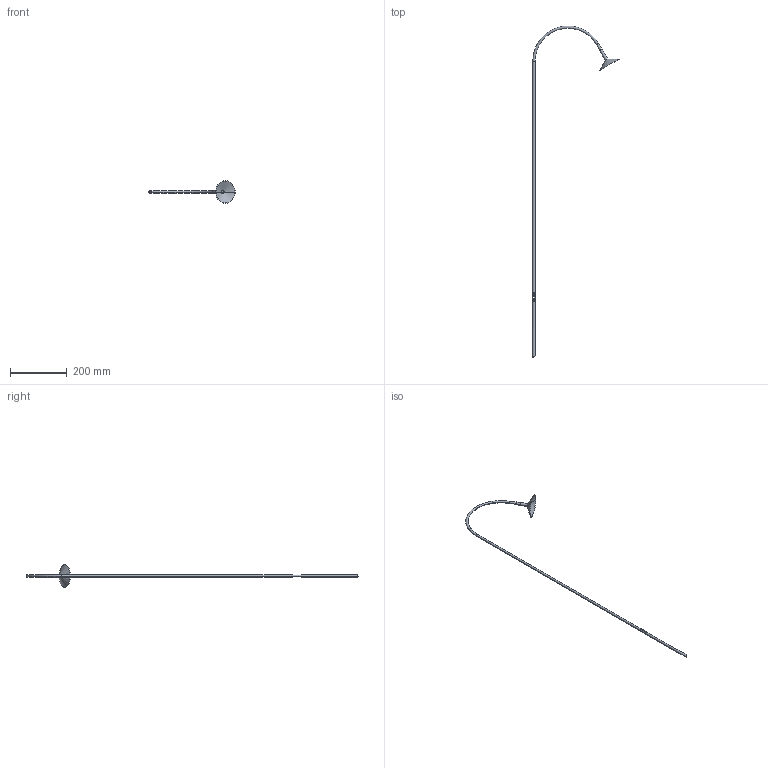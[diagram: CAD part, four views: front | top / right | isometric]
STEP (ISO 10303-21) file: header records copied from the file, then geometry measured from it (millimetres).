
FILE_DESCRIPTION((''),'2;1');
FILE_NAME('CALLA_SW0001','2025-06-24T14:43:36',('Piccioli'),(''),'CREO PARAMETRIC BY PTC INC, 2025010','CREO PARAMETRIC BY PTC INC, 2025010','');
FILE_SCHEMA(('CONFIG_CONTROL_DESIGN'));
Length unit declared in the file: millimetre
Products named in the file (1): CALLA_SW0001
Bounding box: 304.31 x 1169 x 80 mm (x, y, z)
Surface area: 47559.6 mm2 (no closed solid volume)
Topology: 0 solids, 3 shells, 16 faces, 48 edges, 33 vertices
Faces by surface type: cylinder 6, cone 4, plane 2, torus 2, sphere 2
Entity records: 920 total; most frequent: CARTESIAN_POINT 453, DIRECTION 94, ORIENTED_EDGE 74, EDGE_CURVE 46, AXIS2_PLACEMENT_3D 40, VERTEX_POINT 33, CIRCLE 24, EDGE_LOOP 20
